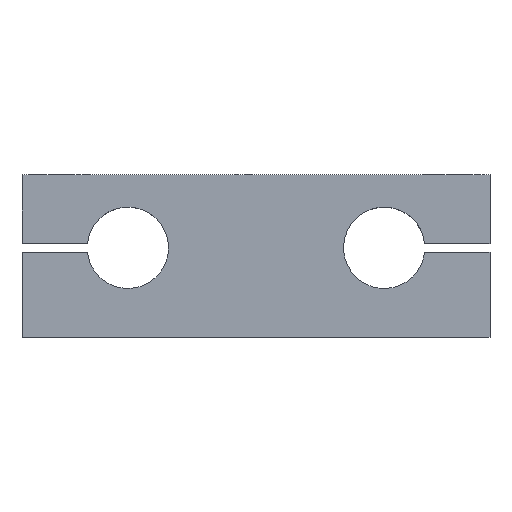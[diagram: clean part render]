
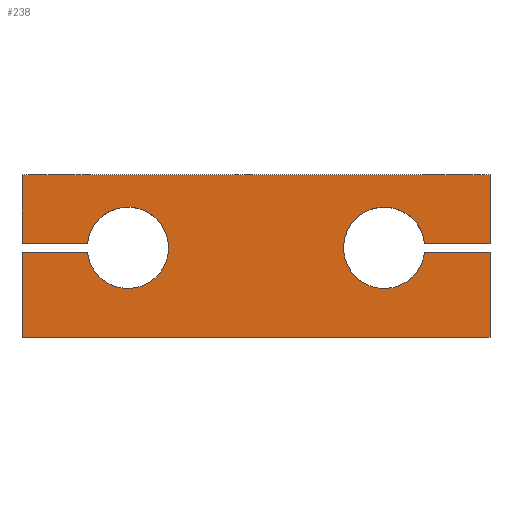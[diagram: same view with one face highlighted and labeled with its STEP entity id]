
A CAD part, top view. The second image highlights one B-rep face of the part: STEP entity #238.
In plain terms, the highlighted planar face has unit normal (0, 0, 1).
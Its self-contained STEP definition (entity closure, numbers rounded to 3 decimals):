
#6 = CARTESIAN_POINT ( 'NONE',  ( -57.5, 3.075, 9. ) ) ;
#42 = CARTESIAN_POINT ( 'NONE',  ( 30.5, 0.925, 9. ) ) ;
#53 = VECTOR ( 'NONE', #773, 1000. ) ;
#54 = LINE ( 'NONE', #150, #714 ) ;
#55 = VERTEX_POINT ( 'NONE', #985 ) ;
#58 = CARTESIAN_POINT ( 'NONE',  ( -57.5, 0.925, 9. ) ) ;
#59 = ORIENTED_EDGE ( 'NONE', *, *, #168, .F. ) ;
#75 = LINE ( 'NONE', #315, #163 ) ;
#78 = EDGE_CURVE ( 'NONE', #55, #620, #446, .T. ) ;
#82 = EDGE_CURVE ( 'NONE', #336, #218, #119, .T. ) ;
#84 = LINE ( 'NONE', #424, #53 ) ;
#95 = CARTESIAN_POINT ( 'NONE',  ( -57.5, 3.075, 9. ) ) ;
#104 = ORIENTED_EDGE ( 'NONE', *, *, #82, .T. ) ;
#118 = VERTEX_POINT ( 'NONE', #882 ) ;
#119 = LINE ( 'NONE', #461, #670 ) ;
#129 = EDGE_LOOP ( 'NONE', ( #310, #598, #59, #991, #104, #953, #899, #609, #780, #1048, #726, #1075, #151 ) ) ;
#131 = LINE ( 'NONE', #42, #875 ) ;
#135 = DIRECTION ( 'NONE',  ( 1., 0., 0. ) ) ;
#150 = CARTESIAN_POINT ( 'NONE',  ( -57.5, 0.925, 9. ) ) ;
#151 = ORIENTED_EDGE ( 'NONE', *, *, #502, .T. ) ;
#159 = CARTESIAN_POINT ( 'NONE',  ( -57.5, -20., 9. ) ) ;
#163 = VECTOR ( 'NONE', #409, 1000. ) ;
#168 = EDGE_CURVE ( 'NONE', #765, #433, #858, .T. ) ;
#181 = CARTESIAN_POINT ( 'NONE',  ( 57.5, -20., 9. ) ) ;
#207 = VERTEX_POINT ( 'NONE', #551 ) ;
#214 = VERTEX_POINT ( 'NONE', #650 ) ;
#218 = VERTEX_POINT ( 'NONE', #159 ) ;
#228 = EDGE_CURVE ( 'NONE', #354, #1059, #484, .T. ) ;
#235 = CARTESIAN_POINT ( 'NONE',  ( -31.5, 2., 9. ) ) ;
#238 = ADVANCED_FACE ( 'NONE', ( #402 ), #323, .T. ) ;
#249 = LINE ( 'NONE', #849, #769 ) ;
#251 = DIRECTION ( 'NONE',  ( 1., 0., 0. ) ) ;
#262 = DIRECTION ( 'NONE',  ( -1., 0., 0. ) ) ;
#277 = DIRECTION ( 'NONE',  ( 0., 0., 1. ) ) ;
#310 = ORIENTED_EDGE ( 'NONE', *, *, #1042, .F. ) ;
#313 = CARTESIAN_POINT ( 'NONE',  ( 0., 0., 9. ) ) ;
#315 = CARTESIAN_POINT ( 'NONE',  ( 57.5, 20., 9. ) ) ;
#322 = DIRECTION ( 'NONE',  ( 0., 0., 1. ) ) ;
#323 = PLANE ( 'NONE',  #335 ) ;
#330 = EDGE_CURVE ( 'NONE', #336, #765, #54, .T. ) ;
#333 = VECTOR ( 'NONE', #495, 1000. ) ;
#335 = AXIS2_PLACEMENT_3D ( 'NONE', #313, #570, #916 ) ;
#336 = VERTEX_POINT ( 'NONE', #58 ) ;
#354 = VERTEX_POINT ( 'NONE', #181 ) ;
#364 = CARTESIAN_POINT ( 'NONE',  ( 57.5, 0.925, 9. ) ) ;
#402 = FACE_OUTER_BOUND ( 'NONE', #129, .T. ) ;
#409 = DIRECTION ( 'NONE',  ( 0., 1., 0. ) ) ;
#412 = CARTESIAN_POINT ( 'NONE',  ( -57.5, 20., 9. ) ) ;
#424 = CARTESIAN_POINT ( 'NONE',  ( -57.5, 20., 9. ) ) ;
#433 = VERTEX_POINT ( 'NONE', #848 ) ;
#438 = VERTEX_POINT ( 'NONE', #6 ) ;
#446 = LINE ( 'NONE', #707, #504 ) ;
#453 = DIRECTION ( 'NONE',  ( 0., -1., 0. ) ) ;
#457 = VECTOR ( 'NONE', #743, 1000. ) ;
#461 = CARTESIAN_POINT ( 'NONE',  ( -57.5, 20., 9. ) ) ;
#484 = LINE ( 'NONE', #738, #457 ) ;
#493 = DIRECTION ( 'NONE',  ( 1., 0., 0. ) ) ;
#495 = DIRECTION ( 'NONE',  ( -1., 0., 0. ) ) ;
#502 = EDGE_CURVE ( 'NONE', #620, #438, #84, .T. ) ;
#504 = VECTOR ( 'NONE', #798, 1000. ) ;
#537 = DIRECTION ( 'NONE',  ( 1., 0., 0. ) ) ;
#551 = CARTESIAN_POINT ( 'NONE',  ( 57.5, 3.075, 9. ) ) ;
#570 = DIRECTION ( 'NONE',  ( 0., 0., 1. ) ) ;
#579 = EDGE_CURVE ( 'NONE', #433, #118, #829, .T. ) ;
#584 = CARTESIAN_POINT ( 'NONE',  ( 31.5, 2., 9. ) ) ;
#585 = EDGE_CURVE ( 'NONE', #207, #214, #749, .T. ) ;
#587 = EDGE_CURVE ( 'NONE', #207, #55, #75, .T. ) ;
#598 = ORIENTED_EDGE ( 'NONE', *, *, #579, .F. ) ;
#609 = ORIENTED_EDGE ( 'NONE', *, *, #869, .F. ) ;
#620 = VERTEX_POINT ( 'NONE', #412 ) ;
#650 = CARTESIAN_POINT ( 'NONE',  ( 41.442, 3.075, 9. ) ) ;
#666 = AXIS2_PLACEMENT_3D ( 'NONE', #235, #322, #251 ) ;
#670 = VECTOR ( 'NONE', #453, 1000. ) ;
#685 = EDGE_CURVE ( 'NONE', #214, #706, #940, .T. ) ;
#701 = CARTESIAN_POINT ( 'NONE',  ( -41.442, 0.925, 9. ) ) ;
#706 = VERTEX_POINT ( 'NONE', #1031 ) ;
#707 = CARTESIAN_POINT ( 'NONE',  ( -57.5, 20., 9. ) ) ;
#714 = VECTOR ( 'NONE', #835, 1000. ) ;
#726 = ORIENTED_EDGE ( 'NONE', *, *, #587, .T. ) ;
#738 = CARTESIAN_POINT ( 'NONE',  ( 57.5, 20., 9. ) ) ;
#743 = DIRECTION ( 'NONE',  ( 0., 1., 0. ) ) ;
#749 = LINE ( 'NONE', #838, #333 ) ;
#765 = VERTEX_POINT ( 'NONE', #701 ) ;
#769 = VECTOR ( 'NONE', #493, 1000. ) ;
#773 = DIRECTION ( 'NONE',  ( 0., -1., 0. ) ) ;
#774 = VECTOR ( 'NONE', #262, 1000. ) ;
#780 = ORIENTED_EDGE ( 'NONE', *, *, #685, .F. ) ;
#798 = DIRECTION ( 'NONE',  ( -1., 0., 0. ) ) ;
#803 = LINE ( 'NONE', #95, #774 ) ;
#809 = AXIS2_PLACEMENT_3D ( 'NONE', #960, #822, #537 ) ;
#822 = DIRECTION ( 'NONE',  ( 0., 0., 1. ) ) ;
#829 = CIRCLE ( 'NONE', #666, 10. ) ;
#835 = DIRECTION ( 'NONE',  ( 1., 0., 0. ) ) ;
#838 = CARTESIAN_POINT ( 'NONE',  ( 30.5, 3.075, 9. ) ) ;
#848 = CARTESIAN_POINT ( 'NONE',  ( -21.5, 2., 9. ) ) ;
#849 = CARTESIAN_POINT ( 'NONE',  ( -57.5, -20., 9. ) ) ;
#858 = CIRCLE ( 'NONE', #809, 10. ) ;
#869 = EDGE_CURVE ( 'NONE', #706, #1059, #131, .T. ) ;
#875 = VECTOR ( 'NONE', #135, 1000. ) ;
#879 = DIRECTION ( 'NONE',  ( 1., 0., 0. ) ) ;
#882 = CARTESIAN_POINT ( 'NONE',  ( -41.442, 3.075, 9. ) ) ;
#899 = ORIENTED_EDGE ( 'NONE', *, *, #228, .T. ) ;
#916 = DIRECTION ( 'NONE',  ( 1., 0., 0. ) ) ;
#940 = CIRCLE ( 'NONE', #1032, 10. ) ;
#953 = ORIENTED_EDGE ( 'NONE', *, *, #981, .T. ) ;
#960 = CARTESIAN_POINT ( 'NONE',  ( -31.5, 2., 9. ) ) ;
#981 = EDGE_CURVE ( 'NONE', #218, #354, #249, .T. ) ;
#985 = CARTESIAN_POINT ( 'NONE',  ( 57.5, 20., 9. ) ) ;
#991 = ORIENTED_EDGE ( 'NONE', *, *, #330, .F. ) ;
#1031 = CARTESIAN_POINT ( 'NONE',  ( 41.442, 0.925, 9. ) ) ;
#1032 = AXIS2_PLACEMENT_3D ( 'NONE', #584, #277, #879 ) ;
#1042 = EDGE_CURVE ( 'NONE', #118, #438, #803, .T. ) ;
#1048 = ORIENTED_EDGE ( 'NONE', *, *, #585, .F. ) ;
#1059 = VERTEX_POINT ( 'NONE', #364 ) ;
#1075 = ORIENTED_EDGE ( 'NONE', *, *, #78, .T. ) ;
